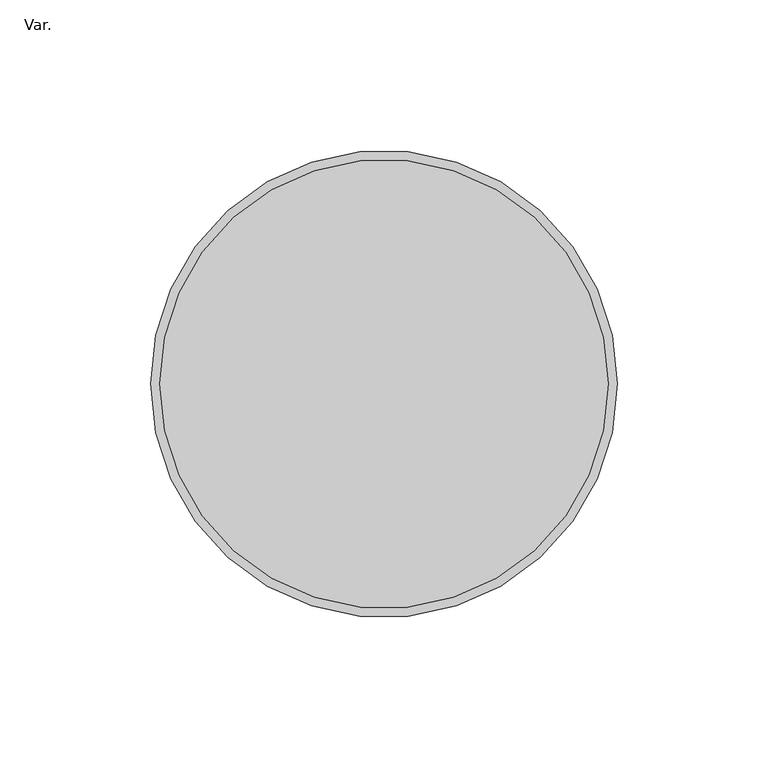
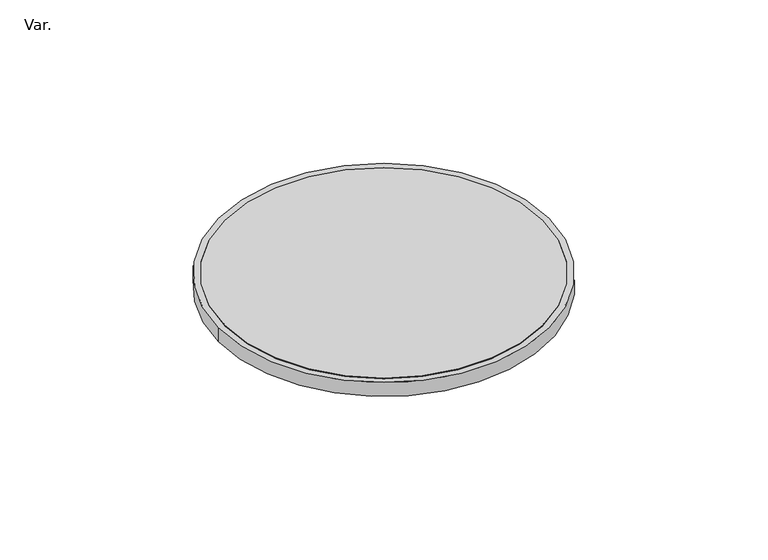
"""IFC4 building model written with IfcOpenShell, lengths in millimetres: pipe fitting geometry, Z_Amanco Esgoto Caixa Sif DN 150  RO GRID(Nested) : Var.."""

from ifc_helpers import new_model, si_unit, point, frame, origin, origin_2d, place, context, project, spatial, circle_curve, trimmed, segment, composite_curve, outline, extrude, source, transform, mapped, element, save


def var_fd0be4a2(model_context):
    return source(origin(), model_context, "Body", "SweptSolid", [
        extrude(outline(composite_curve([segment(trimmed(circle_curve(origin_2d(), 74.5), [point((-74.5, 0.0))], [point((74.5, 0.0))], False, "CARTESIAN"), True, "CONTINUOUS"), segment(trimmed(circle_curve(origin_2d(), 74.5), [point((74.5, 0.0))], [point((-74.5, 0.0))], False, "CARTESIAN"), True, "CONTINUOUS")], self_intersect=False)), frame((0.0, 0.0, -7.0), z_axis=(0.0, 0.0, 1.0), x_axis=(1.0, 0.0, 0.0)), (0.0, 0.0, 1.0), 7.1),
        extrude(outline(composite_curve([segment(trimmed(circle_curve(origin_2d(), 77.5), [point((-77.5, 0.0))], [point((77.5, 0.0))], False, "CARTESIAN"), True, "CONTINUOUS"), segment(trimmed(circle_curve(origin_2d(), 77.5), [point((77.5, 0.0))], [point((-77.5, 0.0))], False, "CARTESIAN"), True, "CONTINUOUS")], self_intersect=False), holes=[composite_curve([segment(trimmed(circle_curve(origin_2d(), 74.5), [point((-74.5, 0.0))], [point((74.5, 0.0))], True, "CARTESIAN"), True, "CONTINUOUS"), segment(trimmed(circle_curve(origin_2d(), 74.5), [point((74.5, 0.0))], [point((-74.5, 0.0))], True, "CARTESIAN"), True, "CONTINUOUS")], self_intersect=False)]), frame((0.0, 0.0, -7.0), z_axis=(0.0, 0.0, 1.0), x_axis=(1.0, 0.0, 0.0)), (0.0, 0.0, 1.0), 7.0),
    ])


if __name__ == "__main__":
    model = new_model("IFC4")
    model_context = context("Model", 3, world=origin())
    ifc_project = project(units=[si_unit("LENGTHUNIT", "METRE", prefix="MILLI")], contexts=[model_context])
    site = spatial("IfcSite", under=ifc_project)
    building = spatial("IfcBuilding", under=site)
    placement = place(None, origin())
    var_shape = var_fd0be4a2(model_context)
    element("IfcPipeFitting", 1, ObjectType="Z_Amanco Esgoto Caixa Sif DN 150  RO GRID(Nested) : Var.", at=placement, inside=building, context=model_context, shape_type="MappedRepresentation", body=[
        mapped(var_shape, transform((0.0, 0.0, 0.0), x_axis=(1.0, 0.0, 0.0), y_axis=(0.0, 1.0, 0.0), z_axis=(0.0, 0.0, 1.0))),
    ])
    save(model, "model.ifc")
